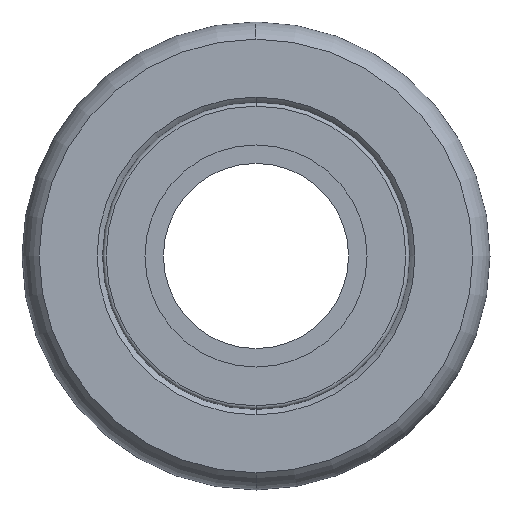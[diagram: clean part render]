
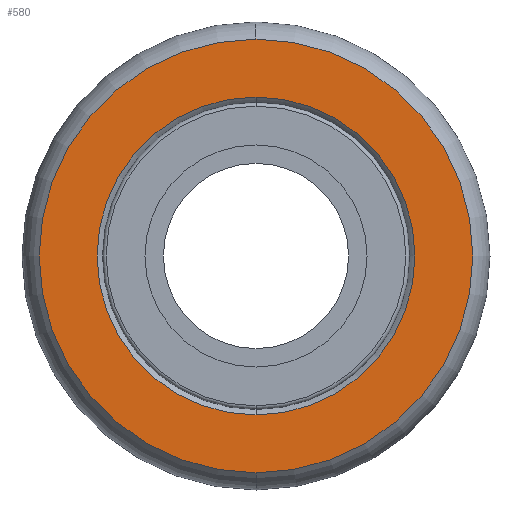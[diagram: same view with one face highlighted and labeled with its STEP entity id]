
A CAD part, front view. The second image highlights one B-rep face of the part: STEP entity #580.
In plain terms, the highlighted planar face has unit normal (0, -1, 0).
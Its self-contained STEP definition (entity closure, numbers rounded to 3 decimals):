
#141=CARTESIAN_POINT('',(0.,2.05,0.));
#142=DIRECTION('',(0.,-1.,0.));
#143=DIRECTION('',(0.,0.,1.));
#144=AXIS2_PLACEMENT_3D('',#141,#142,#143);
#156=CARTESIAN_POINT('',(0.,2.05,0.));
#157=DIRECTION('',(0.,-1.,0.));
#158=DIRECTION('',(0.,0.,-1.));
#159=AXIS2_PLACEMENT_3D('',#156,#157,#158);
#171=CARTESIAN_POINT('',(0.,2.05,0.));
#172=DIRECTION('',(0.,-1.,0.));
#173=DIRECTION('',(0.,0.,1.));
#174=AXIS2_PLACEMENT_3D('',#171,#172,#173);
#257=CARTESIAN_POINT('',(0.,2.05,0.));
#258=DIRECTION('',(0.,-1.,0.));
#259=DIRECTION('',(0.,0.,-1.));
#260=AXIS2_PLACEMENT_3D('',#257,#258,#259);
#307=CARTESIAN_POINT('',(0.,2.05,11.714));
#308=CARTESIAN_POINT('',(0.,2.05,-11.714));
#309=VERTEX_POINT('',#307);
#310=VERTEX_POINT('',#308);
#311=CARTESIAN_POINT('',(0.,2.05,8.586));
#312=CARTESIAN_POINT('',(0.,2.05,-8.586));
#313=VERTEX_POINT('',#311);
#314=VERTEX_POINT('',#312);
#565=CARTESIAN_POINT('',(0.,2.05,0.));
#566=DIRECTION('',(0.,-1.,0.));
#567=DIRECTION('',(-1.,0.,0.));
#568=AXIS2_PLACEMENT_3D('',#565,#566,#567);
#569=PLANE('',#568);
#570=ORIENTED_EDGE('',*,*,#530,.F.);
#571=ORIENTED_EDGE('',*,*,#551,.F.);
#572=EDGE_LOOP('',(#570,#571));
#573=FACE_OUTER_BOUND('',#572,.F.);
#575=ORIENTED_EDGE('',*,*,#574,.T.);
#577=ORIENTED_EDGE('',*,*,#576,.T.);
#578=EDGE_LOOP('',(#575,#577));
#579=FACE_BOUND('',#578,.F.);
#145=CIRCLE('',#144,11.714);
#160=CIRCLE('',#159,11.714);
#175=CIRCLE('',#174,8.586);
#261=CIRCLE('',#260,8.586);
#530=EDGE_CURVE('',#309,#310,#145,.T.);
#551=EDGE_CURVE('',#310,#309,#160,.T.);
#574=EDGE_CURVE('',#313,#314,#175,.T.);
#576=EDGE_CURVE('',#314,#313,#261,.T.);
#580=ADVANCED_FACE('',(#573,#579),#569,.T.);
